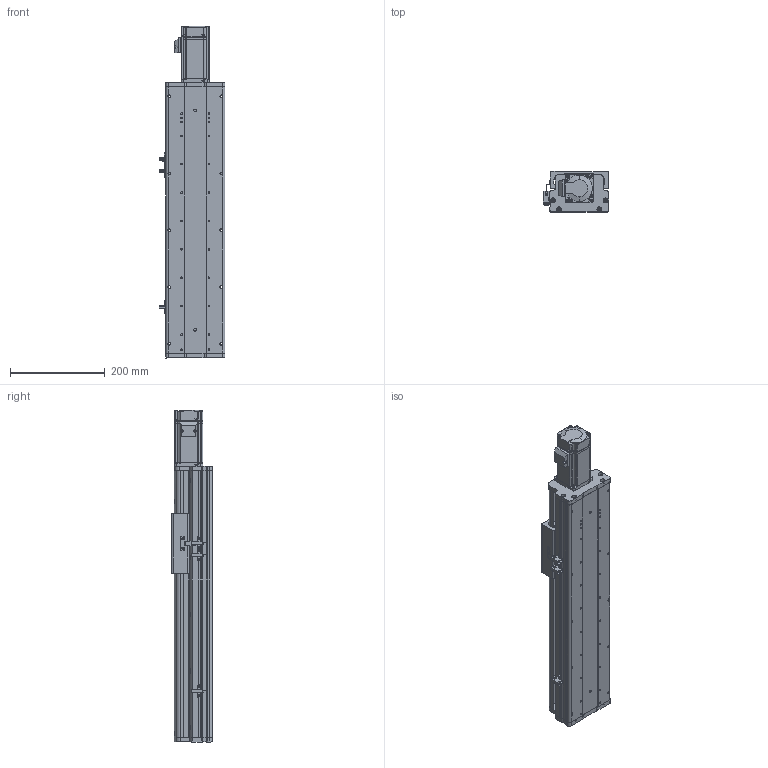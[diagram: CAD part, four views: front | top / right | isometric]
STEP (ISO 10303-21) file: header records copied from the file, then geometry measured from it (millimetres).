
FILE_DESCRIPTION (( 'STEP AP214' ), '1' );
FILE_NAME ('KSD125S-S300-MN-CM.STEP', '2017-08-07T06:08:49', ( '微软用户' ), ( '微软中国' ), 'SwSTEP 2.0', 'SolidWorks 2014', '' );
FILE_SCHEMA (( 'AUTOMOTIVE_DESIGN' ));
Length unit declared in the file: millimetre
Products named in the file (12): 125宽模组 - 直连不带电机座电机安装板; KSD125S-300行程丝杆防尘盖-直连不带电机座; KSD125S-300行程丝杆底板-直连不带电机座; MHMD042G1CA_2_03; 拸萇儂釱滅袉菜; 覜茼え68遵圉猾敕; U倰嫖萇假蚾璃; U倰嫖萇EEㄜSX672; KSD125-賑雄釱1; CS-34X32-10X14; 125-帣傷啣1; KSD125S-S300-MN-CM
Assembly tree (15 placements, depth 2):
  KSD125S-S300-MN-CM
    125-帣傷啣1
    CS-34X32-10X14
    KSD125-賑雄釱1
    U倰嫖萇EEㄜSX672  x3
    U倰嫖萇假蚾璃  x3
    覜茼え68遵圉猾敕
    拸萇儂釱滅袉菜
    MHMD042G1CA_2_03
    KSD125S-300行程丝杆底板-直连不带电机座
    KSD125S-300行程丝杆防尘盖-直连不带电机座
    125宽模组 - 直连不带电机座电机安装板
Bounding box: 138.7 x 86 x 701.5 mm (x, y, z)
Volume: 2120301.1 mm3; surface area: 708603.4 mm2
Topology: 14 solids, 17 shells, 1414 faces, 4089 edges, 2689 vertices
Faces by surface type: cylinder 688, plane 613, cone 91, bspline 22
Entity records: 49542 total; most frequent: CARTESIAN_POINT 10632, DIRECTION 6997, ORIENTED_EDGE 6686, EDGE_CURVE 3421, AXIS2_PLACEMENT_3D 2552, VERTEX_POINT 2281, LINE 1893, VECTOR 1893
